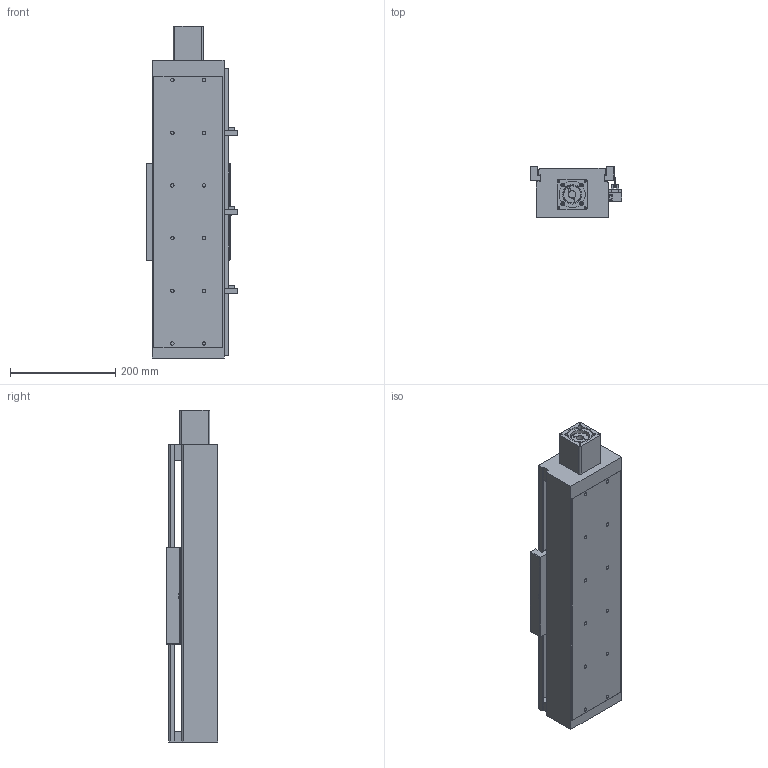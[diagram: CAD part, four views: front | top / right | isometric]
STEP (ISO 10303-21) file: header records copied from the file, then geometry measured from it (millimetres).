
FILE_DESCRIPTION((''),'2;1');
FILE_NAME('E:\libraries\UIA actuator library 2009\standard actuator\UIA136 ball screw 20\UIA136R15NDC stp file 27Apr16\UIA136R15NDC-300-R20_ _-M60-P13-C10-S.stp','2016-04-27T13:10:15',('h029'),(''),'Autodesk Inventor 11','Autodesk Inventor 11','');
FILE_SCHEMA(('AUTOMOTIVE_DESIGN { 1 0 10303 214 1 1 1 1 }'));
Length unit declared in the file: millimetre
Products named in the file (10): UIA136R15NDC-300; UIA136R15NDC-body; motor mount F60; SOH-32C; SOH-32C-3; SOH-32C-1; SOH-32C-2; Carriage; Sensor Switch; sensor rail
Assembly tree (9 placements, depth 3):
  UIA136R15NDC-300
    UIA136R15NDC-body
    motor mount F60
    SOH-32C
      SOH-32C-3
      SOH-32C-1
      SOH-32C-2
    Carriage
    Sensor Switch
    sensor rail
Bounding box: 174.5 x 98 x 630 mm (x, y, z)
Volume: 2774554.1 mm3; surface area: 703888.4 mm2
Topology: 8 solids, 8 shells, 479 faces, 1269 edges, 833 vertices
Faces by surface type: plane 311, bspline 126, cylinder 38, cone 4
Full cylindrical faces by diameter (mm): 2.459 x2, 3.242 x2, 4.5 x2, 5.5 x3, 7.5 x2, 10 x2, 12 x1, 14 x1, 32 x3, 37 x1, 41.9 x1, 42.1 x1, 43.5 x1
Entity records: 15715 total; most frequent: CARTESIAN_POINT 4562, ORIENTED_EDGE 2162, DIRECTION 2098, EDGE_CURVE 1081, VECTOR 790, LINE 790, VERTEX_POINT 768, EDGE_LOOP 705
